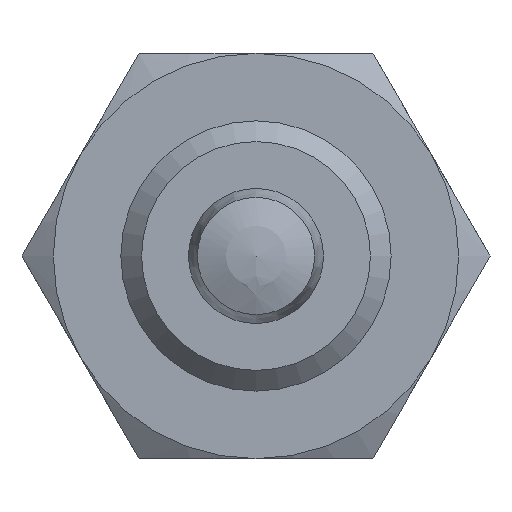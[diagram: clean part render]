
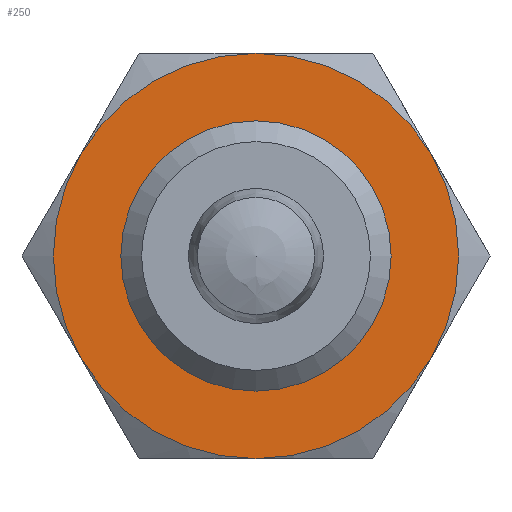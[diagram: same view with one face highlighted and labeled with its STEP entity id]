
A CAD part, front view. The second image highlights one B-rep face of the part: STEP entity #250.
In plain terms, the highlighted planar face has unit normal (0, -1, 0).
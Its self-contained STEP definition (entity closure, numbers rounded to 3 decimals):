
#250 = ADVANCED_FACE( '', ( #365, #366 ), #367, .F. );
#365 = FACE_BOUND( '', #488, .T. );
#366 = FACE_OUTER_BOUND( '', #489, .T. );
#367 = PLANE( '', #490 );
#488 = EDGE_LOOP( '', ( #780 ) );
#489 = EDGE_LOOP( '', ( #781, #782, #783, #784, #785, #786 ) );
#490 = AXIS2_PLACEMENT_3D( '', #787, #788, #789 );
#780 = ORIENTED_EDGE( '', *, *, #894, .F. );
#781 = ORIENTED_EDGE( '', *, *, #889, .T. );
#782 = ORIENTED_EDGE( '', *, *, #891, .T. );
#783 = ORIENTED_EDGE( '', *, *, #893, .T. );
#784 = ORIENTED_EDGE( '', *, *, #862, .T. );
#785 = ORIENTED_EDGE( '', *, *, #887, .T. );
#786 = ORIENTED_EDGE( '', *, *, #888, .T. );
#787 = CARTESIAN_POINT( '', ( 9., 0., 0. ) );
#788 = DIRECTION( '', ( 0., 1., 0. ) );
#789 = DIRECTION( '', ( 0., 0., 1. ) );
#862 = EDGE_CURVE( '', #984, #985, #986, .T. );
#887 = EDGE_CURVE( '', #985, #966, #1023, .T. );
#888 = EDGE_CURVE( '', #966, #978, #1024, .T. );
#889 = EDGE_CURVE( '', #978, #1025, #1026, .T. );
#891 = EDGE_CURVE( '', #1025, #993, #1028, .T. );
#893 = EDGE_CURVE( '', #993, #984, #1030, .T. );
#894 = EDGE_CURVE( '', #1031, #1031, #1032, .T. );
#966 = VERTEX_POINT( '', #1181 );
#978 = VERTEX_POINT( '', #1219 );
#984 = VERTEX_POINT( '', #1245 );
#985 = VERTEX_POINT( '', #1246 );
#986 = CIRCLE( '', #1247, 9. );
#993 = VERTEX_POINT( '', #1265 );
#1023 = CIRCLE( '', #1367, 9. );
#1024 = CIRCLE( '', #1368, 9. );
#1025 = VERTEX_POINT( '', #1369 );
#1026 = CIRCLE( '', #1370, 9. );
#1028 = CIRCLE( '', #1377, 9. );
#1030 = CIRCLE( '', #1386, 9. );
#1031 = VERTEX_POINT( '', #1387 );
#1032 = CIRCLE( '', #1388, 6. );
#1181 = CARTESIAN_POINT( '', ( -7.794, 0., -4.5 ) );
#1219 = CARTESIAN_POINT( '', ( 0., 0., -9. ) );
#1245 = CARTESIAN_POINT( '', ( 0., 0., 9. ) );
#1246 = CARTESIAN_POINT( '', ( -7.794, 0., 4.5 ) );
#1247 = AXIS2_PLACEMENT_3D( '', #1462, #1463, #1464 );
#1265 = CARTESIAN_POINT( '', ( 7.794, 0., 4.5 ) );
#1367 = AXIS2_PLACEMENT_3D( '', #1489, #1490, #1491 );
#1368 = AXIS2_PLACEMENT_3D( '', #1492, #1493, #1494 );
#1369 = CARTESIAN_POINT( '', ( 7.794, 0., -4.5 ) );
#1370 = AXIS2_PLACEMENT_3D( '', #1495, #1496, #1497 );
#1377 = AXIS2_PLACEMENT_3D( '', #1498, #1499, #1500 );
#1386 = AXIS2_PLACEMENT_3D( '', #1501, #1502, #1503 );
#1387 = CARTESIAN_POINT( '', ( 0., 0., -6. ) );
#1388 = AXIS2_PLACEMENT_3D( '', #1504, #1505, #1506 );
#1462 = CARTESIAN_POINT( '', ( 0., 0., 0. ) );
#1463 = DIRECTION( '', ( 0., -1., 0. ) );
#1464 = DIRECTION( '', ( 0., 0., -1. ) );
#1489 = CARTESIAN_POINT( '', ( 0., 0., 0. ) );
#1490 = DIRECTION( '', ( 0., -1., 0. ) );
#1491 = DIRECTION( '', ( 0., 0., -1. ) );
#1492 = CARTESIAN_POINT( '', ( 0., 0., 0. ) );
#1493 = DIRECTION( '', ( 0., -1., 0. ) );
#1494 = DIRECTION( '', ( 0., 0., -1. ) );
#1495 = CARTESIAN_POINT( '', ( 0., 0., 0. ) );
#1496 = DIRECTION( '', ( 0., -1., 0. ) );
#1497 = DIRECTION( '', ( 0., 0., -1. ) );
#1498 = CARTESIAN_POINT( '', ( 0., 0., 0. ) );
#1499 = DIRECTION( '', ( 0., -1., 0. ) );
#1500 = DIRECTION( '', ( 0., 0., -1. ) );
#1501 = CARTESIAN_POINT( '', ( 0., 0., 0. ) );
#1502 = DIRECTION( '', ( 0., -1., 0. ) );
#1503 = DIRECTION( '', ( 0., 0., -1. ) );
#1504 = CARTESIAN_POINT( '', ( 0., 0., 0. ) );
#1505 = DIRECTION( '', ( 0., -1., 0. ) );
#1506 = DIRECTION( '', ( 0., 0., -1. ) );
